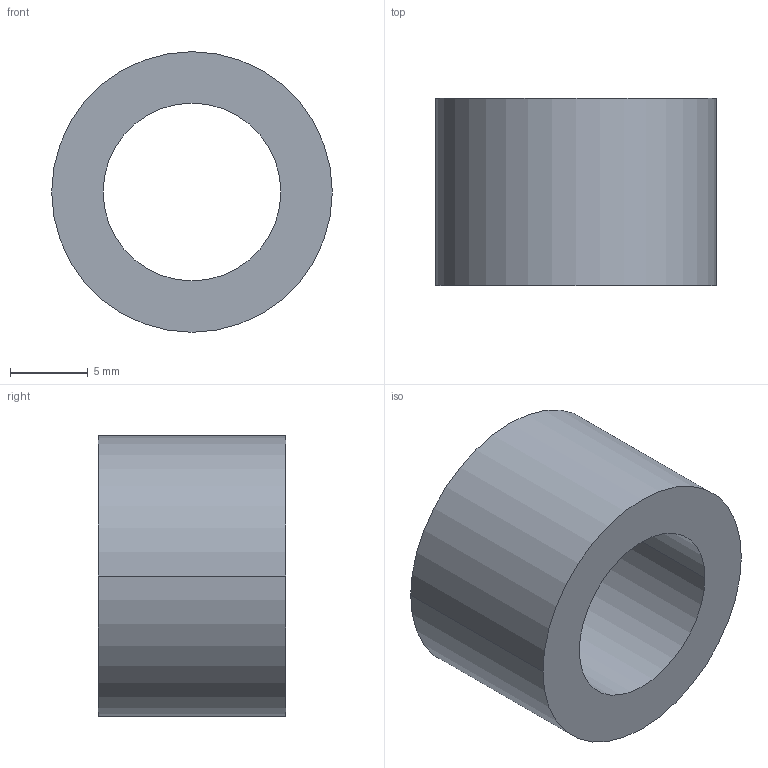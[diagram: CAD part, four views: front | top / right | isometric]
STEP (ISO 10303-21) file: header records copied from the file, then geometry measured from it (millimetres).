
FILE_DESCRIPTION (( 'STEP AP203' ), '1' );
FILE_NAME ('30800.WPP18E11.4.step', '2019-01-23T22:37:19', ( '' ), ( '' ), 'SwSTEP 2.0', 'SolidWorks 2017', '' );
FILE_SCHEMA (( 'CONFIG_CONTROL_DESIGN' ));
Length unit declared in the file: millimetre
Products named in the file (1): 30800.WPP18E11.4
Bounding box: 18 x 12 x 18 mm (x, y, z)
Volume: 1795.6 mm3; surface area: 1384.2 mm2
Topology: 1 solids, 1 shells, 8 faces, 16 edges, 10 vertices
Faces by surface type: cylinder 4, torus 2, plane 2
Entity records: 297 total; most frequent: DIRECTION 46, CARTESIAN_POINT 35, ORIENTED_EDGE 32, AXIS2_PLACEMENT_3D 21, EDGE_CURVE 16, CIRCLE 12, EDGE_LOOP 10, VERTEX_POINT 10
